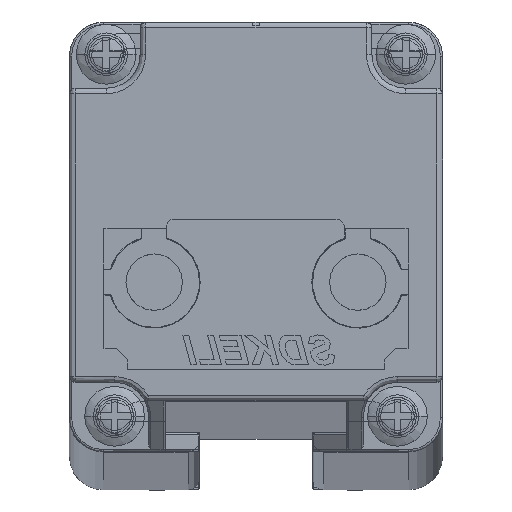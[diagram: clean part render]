
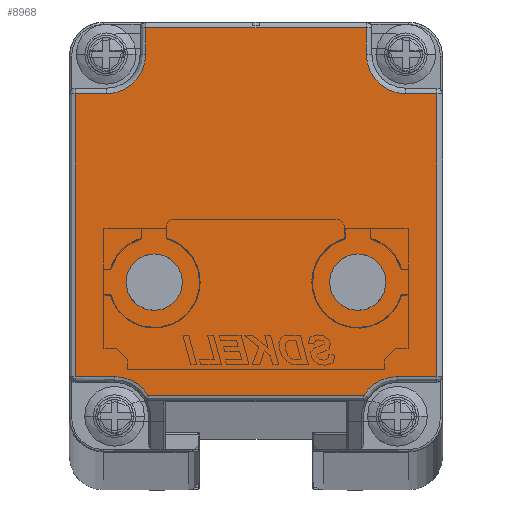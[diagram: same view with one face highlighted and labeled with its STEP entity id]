
A CAD part, top view. The second image highlights one B-rep face of the part: STEP entity #8968.
In plain terms, the highlighted planar face has unit normal (0, 0, 1).
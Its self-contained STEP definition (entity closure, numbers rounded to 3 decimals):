
#2734=CARTESIAN_POINT('',(-12.5,-20.848,0.));
#2735=DIRECTION('',(0.,0.,1.));
#2736=DIRECTION('',(0.849,0.528,0.));
#2737=AXIS2_PLACEMENT_3D('',#2734,#2735,#2736);
#2742=CARTESIAN_POINT('',(-13.25,11.15,0.));
#2743=DIRECTION('',(0.,0.,1.));
#2744=DIRECTION('',(0.,-1.,0.));
#2745=AXIS2_PLACEMENT_3D('',#2742,#2743,#2744);
#2750=CARTESIAN_POINT('',(13.25,11.15,0.));
#2751=DIRECTION('',(0.,0.,1.));
#2752=DIRECTION('',(-1.,0.,0.));
#2753=AXIS2_PLACEMENT_3D('',#2750,#2751,#2752);
#2758=CARTESIAN_POINT('',(12.5,-20.848,0.));
#2759=DIRECTION('',(0.,0.,1.));
#2760=DIRECTION('',(0.,1.,0.));
#2761=AXIS2_PLACEMENT_3D('',#2758,#2759,#2760);
#2766=CARTESIAN_POINT('',(-9.,-8.998,0.));
#2767=DIRECTION('',(0.,0.,1.));
#2768=DIRECTION('',(1.,0.007,0.));
#2769=AXIS2_PLACEMENT_3D('',#2766,#2767,#2768);
#2774=CARTESIAN_POINT('',(-9.,-8.998,0.));
#2775=DIRECTION('',(0.,0.,1.));
#2776=DIRECTION('',(-1.,-0.007,0.));
#2777=AXIS2_PLACEMENT_3D('',#2774,#2775,#2776);
#2782=CARTESIAN_POINT('',(9.,-9.,0.));
#2783=DIRECTION('',(0.,0.,1.));
#2784=DIRECTION('',(1.,-0.007,0.));
#2785=AXIS2_PLACEMENT_3D('',#2782,#2783,#2784);
#2790=CARTESIAN_POINT('',(9.,-9.,0.));
#2791=DIRECTION('',(0.,0.,1.));
#2792=DIRECTION('',(-1.,0.007,0.));
#2793=AXIS2_PLACEMENT_3D('',#2790,#2791,#2792);
#3281=DIRECTION('',(1.,0.,0.));
#3282=VECTOR('',#3281,19.056);
#3283=CARTESIAN_POINT('',(-9.528,-19.,0.));
#3284=LINE('',#3283,#3282);
#4317=DIRECTION('',(0.,1.,0.));
#4318=VECTOR('',#4317,2.35);
#4319=CARTESIAN_POINT('',(9.75,11.15,0.));
#4320=LINE('',#4319,#4318);
#4355=DIRECTION('',(-1.,0.,0.));
#4356=VECTOR('',#4355,19.5);
#4357=CARTESIAN_POINT('',(9.75,13.5,0.));
#4358=LINE('',#4357,#4356);
#4394=DIRECTION('',(0.,-1.,0.));
#4395=VECTOR('',#4394,2.35);
#4396=CARTESIAN_POINT('',(-9.75,13.5,0.));
#4397=LINE('',#4396,#4395);
#4439=DIRECTION('',(-1.,0.,0.));
#4440=VECTOR('',#4439,2.75);
#4441=CARTESIAN_POINT('',(-13.25,7.65,0.));
#4442=LINE('',#4441,#4440);
#4718=DIRECTION('',(0.,-1.,0.));
#4719=VECTOR('',#4718,24.998);
#4720=CARTESIAN_POINT('',(-16.,7.65,0.));
#4721=LINE('',#4720,#4719);
#4781=DIRECTION('',(1.,0.,0.));
#4782=VECTOR('',#4781,3.5);
#4783=CARTESIAN_POINT('',(-16.,-17.348,0.));
#4784=LINE('',#4783,#4782);
#5085=DIRECTION('',(-1.,0.,0.));
#5086=VECTOR('',#5085,2.75);
#5087=CARTESIAN_POINT('',(16.,7.65,0.));
#5088=LINE('',#5087,#5086);
#5180=DIRECTION('',(0.,1.,0.));
#5181=VECTOR('',#5180,24.998);
#5182=CARTESIAN_POINT('',(16.,-17.348,0.));
#5183=LINE('',#5182,#5181);
#5218=DIRECTION('',(1.,0.,0.));
#5219=VECTOR('',#5218,3.5);
#5220=CARTESIAN_POINT('',(12.5,-17.348,0.));
#5221=LINE('',#5220,#5219);
#8070=CARTESIAN_POINT('',(11.5,-9.016,0.));
#8071=VERTEX_POINT('',#8070);
#8072=CARTESIAN_POINT('',(6.5,-8.983,0.));
#8073=VERTEX_POINT('',#8072);
#8074=CARTESIAN_POINT('',(-9.528,-19.,0.));
#8075=CARTESIAN_POINT('',(-12.5,-17.348,0.));
#8076=VERTEX_POINT('',#8074);
#8077=VERTEX_POINT('',#8075);
#8078=CARTESIAN_POINT('',(-16.,-17.348,0.));
#8079=VERTEX_POINT('',#8078);
#8080=CARTESIAN_POINT('',(-16.,7.65,0.));
#8081=VERTEX_POINT('',#8080);
#8082=CARTESIAN_POINT('',(-13.25,7.65,0.));
#8083=VERTEX_POINT('',#8082);
#8084=CARTESIAN_POINT('',(-9.75,11.15,0.));
#8085=VERTEX_POINT('',#8084);
#8086=CARTESIAN_POINT('',(-9.75,13.5,0.));
#8087=VERTEX_POINT('',#8086);
#8088=CARTESIAN_POINT('',(9.75,13.5,0.));
#8089=VERTEX_POINT('',#8088);
#8090=CARTESIAN_POINT('',(9.75,11.15,0.));
#8091=VERTEX_POINT('',#8090);
#8092=CARTESIAN_POINT('',(13.25,7.65,0.));
#8093=VERTEX_POINT('',#8092);
#8094=CARTESIAN_POINT('',(16.,7.65,0.));
#8095=VERTEX_POINT('',#8094);
#8096=CARTESIAN_POINT('',(16.,-17.348,0.));
#8097=VERTEX_POINT('',#8096);
#8098=CARTESIAN_POINT('',(12.5,-17.348,0.));
#8099=VERTEX_POINT('',#8098);
#8100=CARTESIAN_POINT('',(9.528,-19.,0.));
#8101=VERTEX_POINT('',#8100);
#8102=CARTESIAN_POINT('',(-6.5,-8.982,0.));
#8103=CARTESIAN_POINT('',(-11.5,-9.014,0.));
#8104=VERTEX_POINT('',#8102);
#8105=VERTEX_POINT('',#8103);
#8923=CARTESIAN_POINT('',(0.,0.,0.));
#8924=DIRECTION('',(0.,0.,1.));
#8925=DIRECTION('',(1.,0.,0.));
#8926=AXIS2_PLACEMENT_3D('',#8923,#8924,#8925);
#8927=PLANE('',#8926);
#8929=ORIENTED_EDGE('',*,*,#8928,.T.);
#8931=ORIENTED_EDGE('',*,*,#8930,.F.);
#8933=ORIENTED_EDGE('',*,*,#8932,.F.);
#8935=ORIENTED_EDGE('',*,*,#8934,.F.);
#8937=ORIENTED_EDGE('',*,*,#8936,.T.);
#8939=ORIENTED_EDGE('',*,*,#8938,.F.);
#8941=ORIENTED_EDGE('',*,*,#8940,.F.);
#8943=ORIENTED_EDGE('',*,*,#8942,.F.);
#8945=ORIENTED_EDGE('',*,*,#8944,.T.);
#8947=ORIENTED_EDGE('',*,*,#8946,.F.);
#8949=ORIENTED_EDGE('',*,*,#8948,.F.);
#8951=ORIENTED_EDGE('',*,*,#8950,.F.);
#8953=ORIENTED_EDGE('',*,*,#8952,.T.);
#8955=ORIENTED_EDGE('',*,*,#8954,.F.);
#8956=EDGE_LOOP('',(#8929,#8931,#8933,#8935,#8937,#8939,#8941,#8943,#8945,#8947,
#8949,#8951,#8953,#8955));
#8957=FACE_OUTER_BOUND('',#8956,.F.);
#8958=ORIENTED_EDGE('',*,*,#8917,.T.);
#8959=ORIENTED_EDGE('',*,*,#8892,.T.);
#8960=EDGE_LOOP('',(#8958,#8959));
#8961=FACE_BOUND('',#8960,.F.);
#8963=ORIENTED_EDGE('',*,*,#8962,.T.);
#8965=ORIENTED_EDGE('',*,*,#8964,.T.);
#8966=EDGE_LOOP('',(#8963,#8965));
#8967=FACE_BOUND('',#8966,.F.);
#2738=CIRCLE('',#2737,3.5);
#2746=CIRCLE('',#2745,3.5);
#2754=CIRCLE('',#2753,3.5);
#2762=CIRCLE('',#2761,3.5);
#2770=CIRCLE('',#2769,2.5);
#2778=CIRCLE('',#2777,2.5);
#2786=CIRCLE('',#2785,2.5);
#2794=CIRCLE('',#2793,2.5);
#8892=EDGE_CURVE('',#8105,#8104,#2778,.T.);
#8917=EDGE_CURVE('',#8104,#8105,#2770,.T.);
#8928=EDGE_CURVE('',#8076,#8077,#2738,.T.);
#8930=EDGE_CURVE('',#8079,#8077,#4784,.T.);
#8932=EDGE_CURVE('',#8081,#8079,#4721,.T.);
#8934=EDGE_CURVE('',#8083,#8081,#4442,.T.);
#8936=EDGE_CURVE('',#8083,#8085,#2746,.T.);
#8938=EDGE_CURVE('',#8087,#8085,#4397,.T.);
#8940=EDGE_CURVE('',#8089,#8087,#4358,.T.);
#8942=EDGE_CURVE('',#8091,#8089,#4320,.T.);
#8944=EDGE_CURVE('',#8091,#8093,#2754,.T.);
#8946=EDGE_CURVE('',#8095,#8093,#5088,.T.);
#8948=EDGE_CURVE('',#8097,#8095,#5183,.T.);
#8950=EDGE_CURVE('',#8099,#8097,#5221,.T.);
#8952=EDGE_CURVE('',#8099,#8101,#2762,.T.);
#8954=EDGE_CURVE('',#8076,#8101,#3284,.T.);
#8962=EDGE_CURVE('',#8071,#8073,#2786,.T.);
#8964=EDGE_CURVE('',#8073,#8071,#2794,.T.);
#8968=ADVANCED_FACE('',(#8957,#8961,#8967),#8927,.T.);
